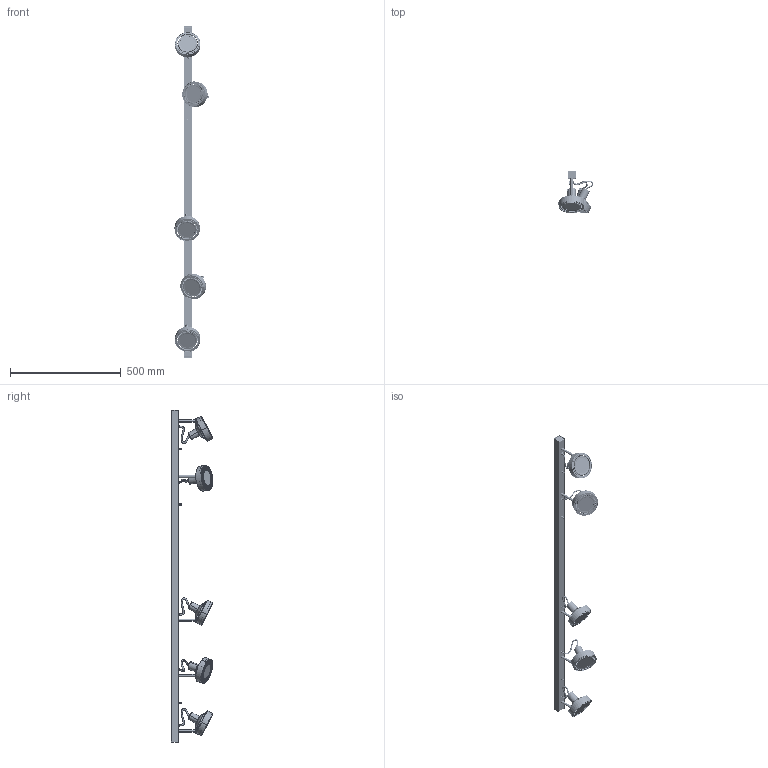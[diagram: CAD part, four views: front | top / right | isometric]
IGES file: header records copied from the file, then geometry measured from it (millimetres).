
Start section: SolidWorks IGES file using analytic representation for surfaces
Global section: file name: Z:\Modele 3D_WWW\_KOLEKCJE_WWW\CROSS\CROSS-V-9604-9600\CROSS-V-9604-9600.IGS; native system: SolidWorks 2021; preprocessor: SolidWorks 2021; author: gabriela.tworek; date: 210705.103519; units: millimetre
Bounding box: 158.38 x 188.04 x 1500 mm (x, y, z)
Surface area: 887811.8 mm2 (no closed solid volume)
Topology: 0 solids, 0 shells, 2892 faces, 32572 edges, 32542 vertices
Faces by surface type: bspline 1709, revolution 1183
